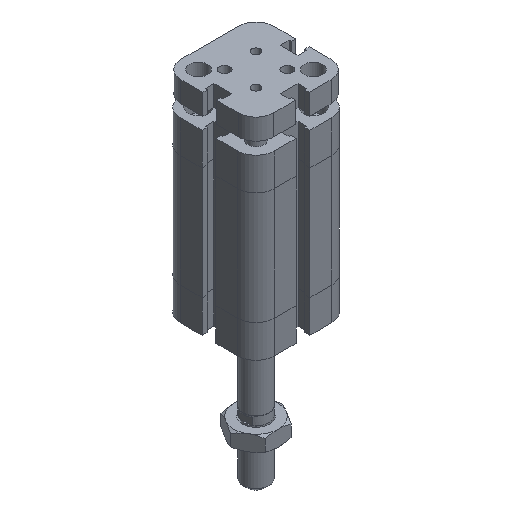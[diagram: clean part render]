
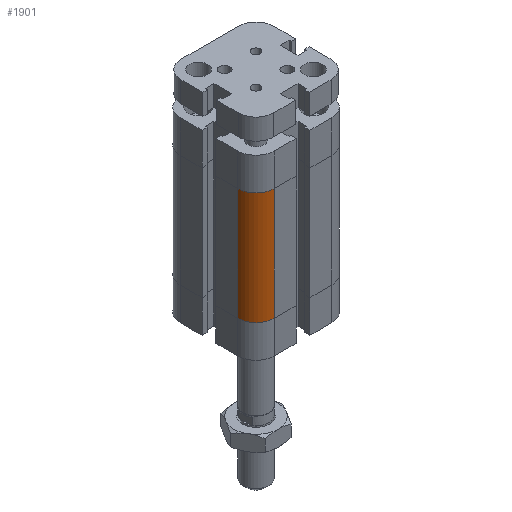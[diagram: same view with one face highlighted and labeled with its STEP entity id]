
A CAD part, isometric view. The second image highlights one B-rep face of the part: STEP entity #1901.
In plain terms, the highlighted cylindrical face has radius 7 mm (diameter 14 mm), a partial arc.
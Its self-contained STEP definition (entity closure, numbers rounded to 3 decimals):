
#1812=CARTESIAN_POINT('',(-18.,-11.0,12.5));
#1813=VERTEX_POINT('',#1812);
#1820=CARTESIAN_POINT('',(-18.,-11.0,55.5));
#1821=VERTEX_POINT('',#1820);
#1822=CARTESIAN_POINT('',(-18.,-11.0,12.5));
#1823=DIRECTION('',(0.0,0.0,1.0));
#1824=VECTOR('',#1823,43.);
#1825=LINE('',#1822,#1824);
#1826=EDGE_CURVE('',#1813,#1821,#1825,.T.);
#1869=CARTESIAN_POINT('',(-11.0,-11.0,0.0));
#1870=DIRECTION('',(0.0,0.0,1.0));
#1871=DIRECTION('',(1.0,0.0,0.0));
#1872=AXIS2_PLACEMENT_3D('',#1869,#1870,#1871);
#1873=CYLINDRICAL_SURFACE('',#1872,7.0);
#1874=CARTESIAN_POINT('',(-11.0,-18.,12.5));
#1875=VERTEX_POINT('',#1874);
#1876=CARTESIAN_POINT('',(-11.0,-11.0,12.5));
#1877=DIRECTION('',(0.0,0.0,1.0));
#1878=DIRECTION('',(1.0,0.0,0.0));
#1879=AXIS2_PLACEMENT_3D('',#1876,#1877,#1878);
#1880=CIRCLE('',#1879,7.0);
#1881=EDGE_CURVE('',#1813,#1875,#1880,.T.);
#1882=ORIENTED_EDGE('',*,*,#1881,.T.);
#1883=CARTESIAN_POINT('',(-11.0,-18.,55.5));
#1884=VERTEX_POINT('',#1883);
#1885=CARTESIAN_POINT('',(-11.0,-18.,12.5));
#1886=DIRECTION('',(0.0,0.0,1.0));
#1887=VECTOR('',#1886,43.);
#1888=LINE('',#1885,#1887);
#1889=EDGE_CURVE('',#1875,#1884,#1888,.T.);
#1890=ORIENTED_EDGE('',*,*,#1889,.T.);
#1891=CARTESIAN_POINT('',(-11.0,-11.0,55.5));
#1892=DIRECTION('',(0.0,0.0,1.0));
#1893=DIRECTION('',(1.0,0.0,0.0));
#1894=AXIS2_PLACEMENT_3D('',#1891,#1892,#1893);
#1895=CIRCLE('',#1894,7.0);
#1896=EDGE_CURVE('',#1821,#1884,#1895,.T.);
#1897=ORIENTED_EDGE('',*,*,#1896,.F.);
#1898=ORIENTED_EDGE('',*,*,#1826,.F.);
#1899=EDGE_LOOP('',(#1882,#1890,#1897,#1898));
#1900=FACE_OUTER_BOUND('',#1899,.T.);
#1901=ADVANCED_FACE('',(#1900),#1873,.T.);
